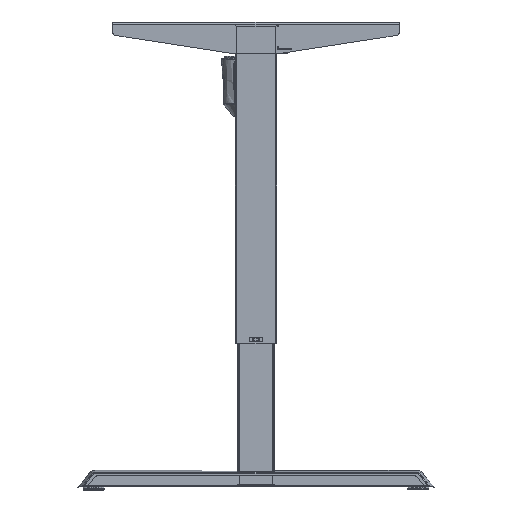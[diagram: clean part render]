
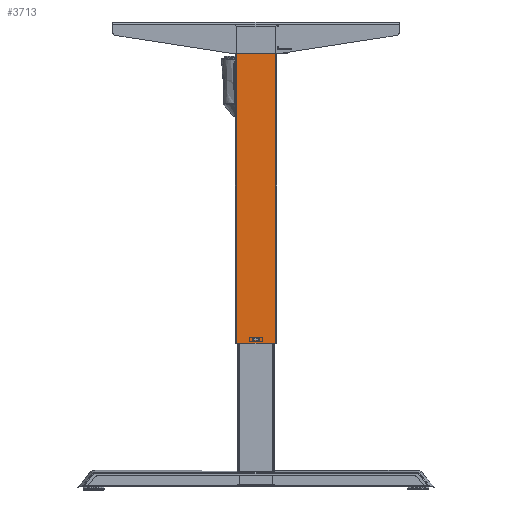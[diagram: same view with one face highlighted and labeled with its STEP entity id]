
A CAD part, left-side view. The second image highlights one B-rep face of the part: STEP entity #3713.
In plain terms, the highlighted planar face has unit normal (-1, 0, 0).
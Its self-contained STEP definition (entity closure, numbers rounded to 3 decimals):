
#2259 = CARTESIAN_POINT ( 'NONE',  ( -30., -6., 10. ) ) ;
#3713 = ADVANCED_FACE ( 'NONE', ( #66241, #48642 ), #25151, .F. ) ;
#5456 = LINE ( 'NONE', #45611, #22223 ) ;
#6933 = DIRECTION ( 'NONE',  ( 0., -1., 0. ) ) ;
#7718 = LINE ( 'NONE', #2259, #20930 ) ;
#8655 = ORIENTED_EDGE ( 'NONE', *, *, #22342, .T. ) ;
#8763 = DIRECTION ( 'NONE',  ( 0., 0., 1. ) ) ;
#13511 = VERTEX_POINT ( 'NONE', #20652 ) ;
#14063 = DIRECTION ( 'NONE',  ( 0., 1., 0. ) ) ;
#15984 = VECTOR ( 'NONE', #37405, 1000. ) ;
#16461 = VERTEX_POINT ( 'NONE', #20191 ) ;
#17284 = ORIENTED_EDGE ( 'NONE', *, *, #72334, .F. ) ;
#17388 = LINE ( 'NONE', #58524, #69270 ) ;
#20191 = CARTESIAN_POINT ( 'NONE',  ( -30., 6., 6. ) ) ;
#20652 = CARTESIAN_POINT ( 'NONE',  ( -30., -37., 609. ) ) ;
#20930 = VECTOR ( 'NONE', #35246, 1000. ) ;
#21442 = CARTESIAN_POINT ( 'NONE',  ( -30., 6., 10. ) ) ;
#21530 = CARTESIAN_POINT ( 'NONE',  ( -30., -6., 10. ) ) ;
#21723 = ORIENTED_EDGE ( 'NONE', *, *, #32269, .T. ) ;
#22223 = VECTOR ( 'NONE', #62063, 1000. ) ;
#22342 = EDGE_CURVE ( 'NONE', #16461, #57813, #72193, .T. ) ;
#25151 = PLANE ( 'NONE',  #35567 ) ;
#27604 = EDGE_CURVE ( 'NONE', #49789, #53432, #7718, .T. ) ;
#27678 = LINE ( 'NONE', #62929, #38215 ) ;
#28242 = ORIENTED_EDGE ( 'NONE', *, *, #63175, .T. ) ;
#30237 = EDGE_LOOP ( 'NONE', ( #8655, #42808, #38817, #51506 ) ) ;
#30709 = CARTESIAN_POINT ( 'NONE',  ( -30., 37., 0. ) ) ;
#31859 = VECTOR ( 'NONE', #8763, 1000. ) ;
#32269 = EDGE_CURVE ( 'NONE', #49744, #51395, #5456, .T. ) ;
#35246 = DIRECTION ( 'NONE',  ( 0., 0., -1. ) ) ;
#35567 = AXIS2_PLACEMENT_3D ( 'NONE', #70085, #42039, #14063 ) ;
#37405 = DIRECTION ( 'NONE',  ( 0., 0., -1. ) ) ;
#37483 = CARTESIAN_POINT ( 'NONE',  ( -30., 37., 609. ) ) ;
#37589 = DIRECTION ( 'NONE',  ( 0., 1., 0. ) ) ;
#38215 = VECTOR ( 'NONE', #6933, 1000. ) ;
#38699 = ORIENTED_EDGE ( 'NONE', *, *, #47142, .F. ) ;
#38817 = ORIENTED_EDGE ( 'NONE', *, *, #27604, .T. ) ;
#41851 = EDGE_CURVE ( 'NONE', #57813, #49789, #17388, .T. ) ;
#42039 = DIRECTION ( 'NONE',  ( 1., 0., 0. ) ) ;
#42808 = ORIENTED_EDGE ( 'NONE', *, *, #41851, .T. ) ;
#45611 = CARTESIAN_POINT ( 'NONE',  ( -30., 37., 614. ) ) ;
#46852 = LINE ( 'NONE', #30709, #60007 ) ;
#47142 = EDGE_CURVE ( 'NONE', #13511, #64896, #55466, .T. ) ;
#47487 = CARTESIAN_POINT ( 'NONE',  ( -30., 37., 0. ) ) ;
#48642 = FACE_OUTER_BOUND ( 'NONE', #60894, .T. ) ;
#48857 = CARTESIAN_POINT ( 'NONE',  ( -30., 6., 6. ) ) ;
#49744 = VERTEX_POINT ( 'NONE', #37483 ) ;
#49789 = VERTEX_POINT ( 'NONE', #21530 ) ;
#51395 = VERTEX_POINT ( 'NONE', #47487 ) ;
#51506 = ORIENTED_EDGE ( 'NONE', *, *, #53987, .T. ) ;
#53432 = VERTEX_POINT ( 'NONE', #60448 ) ;
#53987 = EDGE_CURVE ( 'NONE', #53432, #16461, #55816, .T. ) ;
#54356 = CARTESIAN_POINT ( 'NONE',  ( -30., 6., 10. ) ) ;
#54524 = CARTESIAN_POINT ( 'NONE',  ( -30., -37., 614. ) ) ;
#55466 = LINE ( 'NONE', #54524, #15984 ) ;
#55816 = LINE ( 'NONE', #48857, #66451 ) ;
#57813 = VERTEX_POINT ( 'NONE', #21442 ) ;
#58142 = DIRECTION ( 'NONE',  ( 0., -1., 0. ) ) ;
#58524 = CARTESIAN_POINT ( 'NONE',  ( -30., 6., 10. ) ) ;
#60007 = VECTOR ( 'NONE', #58142, 1000. ) ;
#60448 = CARTESIAN_POINT ( 'NONE',  ( -30., -6., 6. ) ) ;
#60894 = EDGE_LOOP ( 'NONE', ( #38699, #17284, #21723, #28242 ) ) ;
#62063 = DIRECTION ( 'NONE',  ( 0., 0., -1. ) ) ;
#62929 = CARTESIAN_POINT ( 'NONE',  ( -30., 40., 609. ) ) ;
#63175 = EDGE_CURVE ( 'NONE', #51395, #64896, #46852, .T. ) ;
#64225 = DIRECTION ( 'NONE',  ( 0., -1., 0. ) ) ;
#64896 = VERTEX_POINT ( 'NONE', #70205 ) ;
#66241 = FACE_BOUND ( 'NONE', #30237, .T. ) ;
#66451 = VECTOR ( 'NONE', #37589, 1000. ) ;
#69270 = VECTOR ( 'NONE', #64225, 1000. ) ;
#70085 = CARTESIAN_POINT ( 'NONE',  ( -30., 37., 614. ) ) ;
#70205 = CARTESIAN_POINT ( 'NONE',  ( -30., -37., 0. ) ) ;
#72193 = LINE ( 'NONE', #54356, #31859 ) ;
#72334 = EDGE_CURVE ( 'NONE', #49744, #13511, #27678, .T. ) ;
